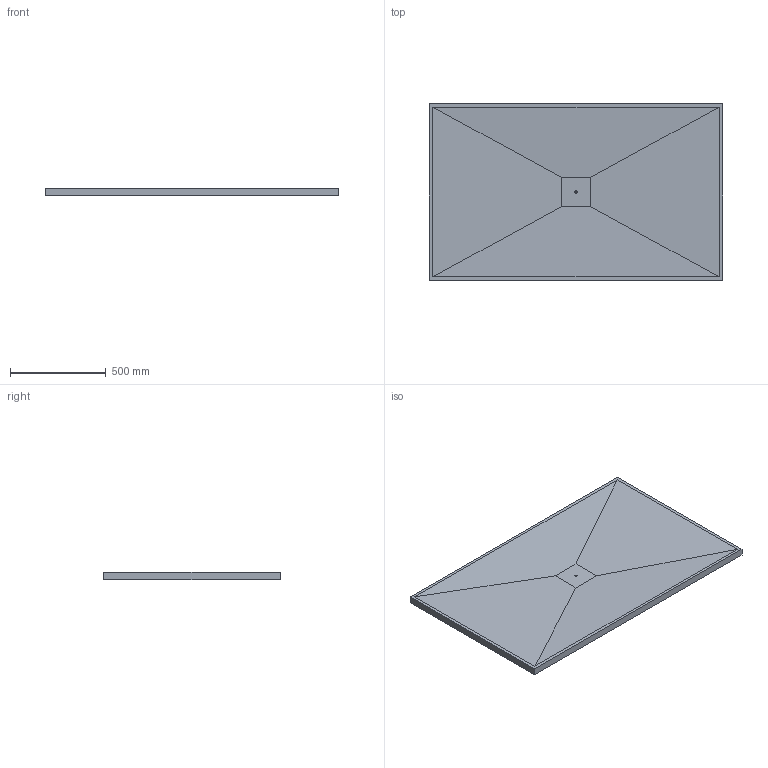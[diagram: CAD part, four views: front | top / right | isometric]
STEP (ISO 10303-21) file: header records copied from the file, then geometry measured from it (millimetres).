
FILE_DESCRIPTION(/* description */ ('Kundenzeichnung / customer drawing'),/* implementation_level */ '2;1');
FILE_NAME(/* name */ 'C:\Users\fuser-vault-job\AppData\Local\Temp\MuM_mllo14kr.bxb\D-000000857.ipt_.step',/* time_stamp */ '2022-07-13T16:34:10+02:00',/* author */ ('template'),/* organization */ (''),/* preprocessor_version */ 'ST-DEVELOPER v18.1',/* originating_system */ 'Autodesk Inventor 2020',/* authorisation */ '0 mm^3');
FILE_SCHEMA (('AUTOMOTIVE_DESIGN { 1 0 10303 214 3 1 1 }'));
Length unit declared in the file: millimetre
Products named in the file (1): 073740051
Bounding box: 1534 x 922.4 x 37.5 mm (x, y, z)
Volume: 44085840.6 mm3; surface area: 3015699.2 mm2
Topology: 1 solids, 1 shells, 13 faces, 39 edges, 42 vertices
Faces by surface type: plane 12, cylinder 1
Full cylindrical faces by diameter (mm): 11 x1
Entity records: 443 total; most frequent: CARTESIAN_POINT 83, DIRECTION 57, ORIENTED_EDGE 54, EDGE_CURVE 27, LINE 25, VECTOR 25, VERTEX_POINT 18, AXIS2_PLACEMENT_3D 16
